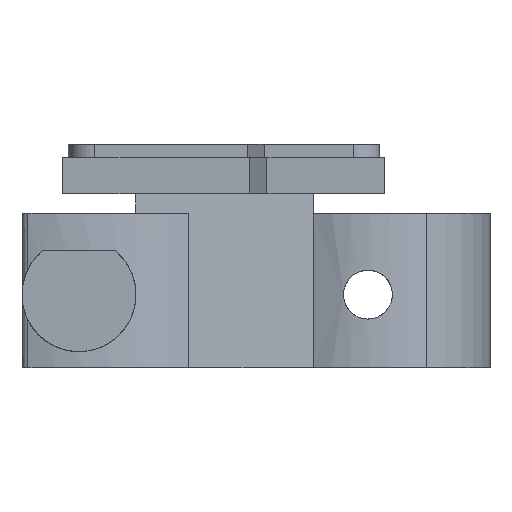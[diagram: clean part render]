
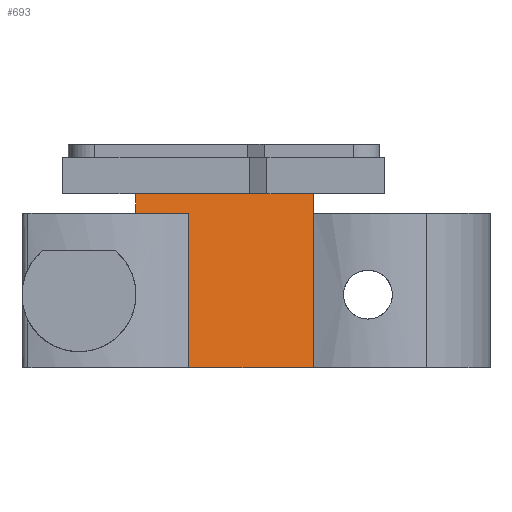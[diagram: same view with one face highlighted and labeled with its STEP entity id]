
A CAD part, front view. The second image highlights one B-rep face of the part: STEP entity #693.
In plain terms, the highlighted planar face has unit normal (0.259, -0.966, 0).
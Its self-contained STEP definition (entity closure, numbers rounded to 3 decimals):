
#621 = EDGE_LOOP ( 'NONE', ( #723, #635, #715, #684, #631, #643 ) ) ;
#631 = ORIENTED_EDGE ( 'NONE', *, *, #644, .T. ) ;
#633 = EDGE_CURVE ( 'NONE', #729, #724, #3584, .T. ) ;
#635 = ORIENTED_EDGE ( 'NONE', *, *, #633, .T. ) ;
#642 = VERTEX_POINT ( 'NONE', #3612 ) ;
#643 = ORIENTED_EDGE ( 'NONE', *, *, #732, .T. ) ;
#644 = EDGE_CURVE ( 'NONE', #738, #665, #3609, .T. ) ;
#665 = VERTEX_POINT ( 'NONE', #3645 ) ;
#676 = VERTEX_POINT ( 'NONE', #3772 ) ;
#684 = ORIENTED_EDGE ( 'NONE', *, *, #696, .T. ) ;
#693 = ADVANCED_FACE ( 'NONE', ( #3815 ), #3813, .T. ) ;
#696 = EDGE_CURVE ( 'NONE', #642, #738, #3803, .T. ) ;
#698 = EDGE_CURVE ( 'NONE', #724, #642, #3844, .T. ) ;
#706 = EDGE_CURVE ( 'NONE', #676, #729, #3826, .T. ) ;
#715 = ORIENTED_EDGE ( 'NONE', *, *, #698, .T. ) ;
#723 = ORIENTED_EDGE ( 'NONE', *, *, #706, .T. ) ;
#724 = VERTEX_POINT ( 'NONE', #3870 ) ;
#729 = VERTEX_POINT ( 'NONE', #3873 ) ;
#732 = EDGE_CURVE ( 'NONE', #665, #676, #3860, .T. ) ;
#738 = VERTEX_POINT ( 'NONE', #3861 ) ;
#3581 = VECTOR ( 'NONE', #3629, 1000. ) ;
#3582 = CARTESIAN_POINT ( 'NONE',  ( 7.05, -14.53, 36.1 ) ) ;
#3584 = LINE ( 'NONE', #3582, #3581 ) ;
#3606 = DIRECTION ( 'NONE',  ( 0., 0., 1. ) ) ;
#3607 = VECTOR ( 'NONE', #3606, 1000. ) ;
#3608 = CARTESIAN_POINT ( 'NONE',  ( 7.05, -14.53, 17.1 ) ) ;
#3609 = LINE ( 'NONE', #3608, #3607 ) ;
#3612 = CARTESIAN_POINT ( 'NONE',  ( -8.268, -18.634, 17.1 ) ) ;
#3629 = DIRECTION ( 'NONE',  ( 0.966, 0.259, 0. ) ) ;
#3645 = CARTESIAN_POINT ( 'NONE',  ( 7.05, -14.53, 38.5 ) ) ;
#3772 = CARTESIAN_POINT ( 'NONE',  ( -14.75, -20.371, 38.5 ) ) ;
#3797 = DIRECTION ( 'NONE',  ( 0.966, 0.259, 0. ) ) ;
#3798 = VECTOR ( 'NONE', #3797, 1000. ) ;
#3799 = CARTESIAN_POINT ( 'NONE',  ( 7.05, -14.53, 17.1 ) ) ;
#3801 = DIRECTION ( 'NONE',  ( 0.966, 0.259, 0. ) ) ;
#3802 = DIRECTION ( 'NONE',  ( 0.259, -0.966, 0. ) ) ;
#3803 = LINE ( 'NONE', #3799, #3798 ) ;
#3808 = AXIS2_PLACEMENT_3D ( 'NONE', #3821, #3802, #3801 ) ;
#3813 = PLANE ( 'NONE',  #3808 ) ;
#3815 = FACE_OUTER_BOUND ( 'NONE', #621, .T. ) ;
#3821 = CARTESIAN_POINT ( 'NONE',  ( 7.05, -14.53, 17.1 ) ) ;
#3823 = DIRECTION ( 'NONE',  ( 0., 0., -1. ) ) ;
#3824 = VECTOR ( 'NONE', #3823, 1000. ) ;
#3825 = CARTESIAN_POINT ( 'NONE',  ( -14.75, -20.371, 17.1 ) ) ;
#3826 = LINE ( 'NONE', #3825, #3824 ) ;
#3841 = DIRECTION ( 'NONE',  ( 0., 0., -1. ) ) ;
#3842 = VECTOR ( 'NONE', #3841, 1000. ) ;
#3843 = CARTESIAN_POINT ( 'NONE',  ( -8.268, -18.634, 17.1 ) ) ;
#3844 = LINE ( 'NONE', #3843, #3842 ) ;
#3854 = DIRECTION ( 'NONE',  ( -0.966, -0.259, 0. ) ) ;
#3855 = VECTOR ( 'NONE', #3854, 1000. ) ;
#3856 = CARTESIAN_POINT ( 'NONE',  ( 7.05, -14.53, 38.5 ) ) ;
#3860 = LINE ( 'NONE', #3856, #3855 ) ;
#3861 = CARTESIAN_POINT ( 'NONE',  ( 7.05, -14.53, 17.1 ) ) ;
#3870 = CARTESIAN_POINT ( 'NONE',  ( -8.268, -18.634, 36.1 ) ) ;
#3873 = CARTESIAN_POINT ( 'NONE',  ( -14.75, -20.371, 36.1 ) ) ;
